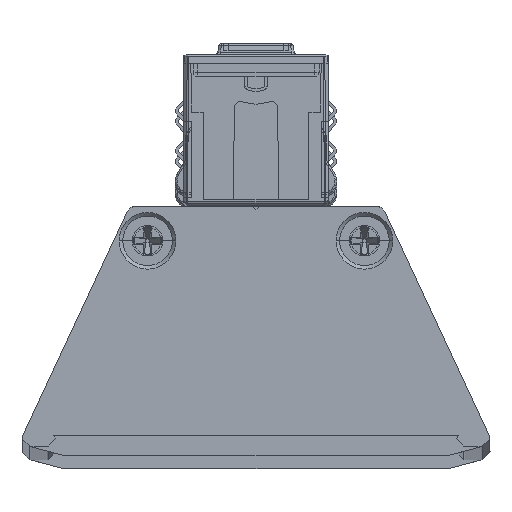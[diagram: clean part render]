
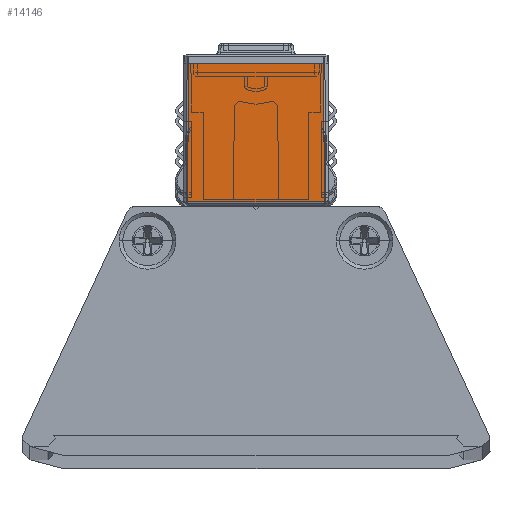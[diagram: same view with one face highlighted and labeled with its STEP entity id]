
A CAD part, top view. The second image highlights one B-rep face of the part: STEP entity #14146.
In plain terms, the highlighted planar face has unit normal (0, -0.004, 1) as drawn and (0, 1, 0.004) by its records, which use the part's own axes.
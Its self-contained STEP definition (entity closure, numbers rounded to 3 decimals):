
#1191 = DIRECTION ( 'NONE',  ( -0.004, 0.004, -1. ) ) ;
#3020 = VECTOR ( 'NONE', #47765, 1000. ) ;
#9090 = AXIS2_PLACEMENT_3D ( 'NONE', #64365, #39055, #28402 ) ;
#9342 = VECTOR ( 'NONE', #1191, 1000. ) ;
#10329 = EDGE_CURVE ( 'NONE', #32183, #21642, #12080, .T. ) ;
#11144 = DIRECTION ( 'NONE',  ( 1., 0., 0. ) ) ;
#12080 = LINE ( 'NONE', #20841, #18414 ) ;
#14001 = LINE ( 'NONE', #47548, #3020 ) ;
#14146 = ADVANCED_FACE ( 'NONE', ( #24320 ), #38849, .T. ) ;
#15851 = CARTESIAN_POINT ( 'NONE',  ( -42.6, 18.437, 95.586 ) ) ;
#18414 = VECTOR ( 'NONE', #11144, 1000. ) ;
#18793 = LINE ( 'NONE', #15851, #38685 ) ;
#20841 = CARTESIAN_POINT ( 'NONE',  ( -36.5, 18.504, 80.201 ) ) ;
#21642 = VERTEX_POINT ( 'NONE', #33720 ) ;
#22237 = EDGE_LOOP ( 'NONE', ( #47459, #48662, #23361, #54861 ) ) ;
#22331 = VERTEX_POINT ( 'NONE', #30716 ) ;
#23361 = ORIENTED_EDGE ( 'NONE', *, *, #24745, .T. ) ;
#24320 = FACE_OUTER_BOUND ( 'NONE', #22237, .T. ) ;
#24745 = EDGE_CURVE ( 'NONE', #32183, #31814, #14001, .T. ) ;
#28402 = DIRECTION ( 'NONE',  ( 0., 0.004, -1. ) ) ;
#30716 = CARTESIAN_POINT ( 'NONE',  ( -27.416, 18.437, 95.586 ) ) ;
#31510 = LINE ( 'NONE', #61415, #9342 ) ;
#31814 = VERTEX_POINT ( 'NONE', #52849 ) ;
#32183 = VERTEX_POINT ( 'NONE', #36240 ) ;
#33720 = CARTESIAN_POINT ( 'NONE',  ( -27.483, 18.504, 80.201 ) ) ;
#36240 = CARTESIAN_POINT ( 'NONE',  ( -42.517, 18.504, 80.201 ) ) ;
#38151 = EDGE_CURVE ( 'NONE', #31814, #22331, #18793, .T. ) ;
#38685 = VECTOR ( 'NONE', #46423, 1000. ) ;
#38849 = PLANE ( 'NONE',  #9090 ) ;
#39055 = DIRECTION ( 'NONE',  ( 0., 1., 0.004 ) ) ;
#46423 = DIRECTION ( 'NONE',  ( 1., 0., 0. ) ) ;
#47459 = ORIENTED_EDGE ( 'NONE', *, *, #53744, .T. ) ;
#47548 = CARTESIAN_POINT ( 'NONE',  ( -42.517, 18.504, 80.201 ) ) ;
#47765 = DIRECTION ( 'NONE',  ( -0.004, -0.004, 1. ) ) ;
#48662 = ORIENTED_EDGE ( 'NONE', *, *, #10329, .F. ) ;
#52849 = CARTESIAN_POINT ( 'NONE',  ( -42.584, 18.437, 95.586 ) ) ;
#53744 = EDGE_CURVE ( 'NONE', #22331, #21642, #31510, .T. ) ;
#54861 = ORIENTED_EDGE ( 'NONE', *, *, #38151, .T. ) ;
#61415 = CARTESIAN_POINT ( 'NONE',  ( -27.416, 18.437, 95.586 ) ) ;
#64365 = CARTESIAN_POINT ( 'NONE',  ( -42.6, 18.504, 80.201 ) ) ;
